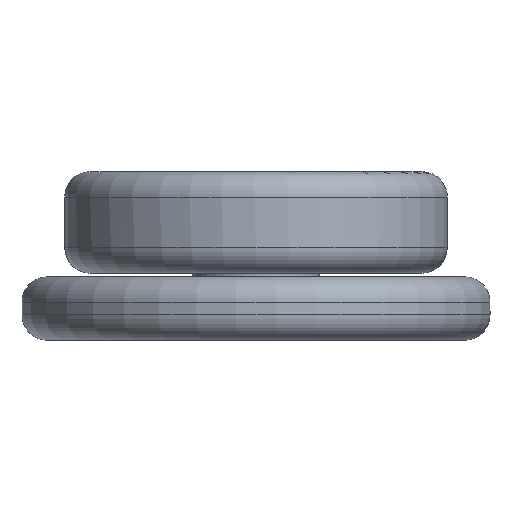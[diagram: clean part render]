
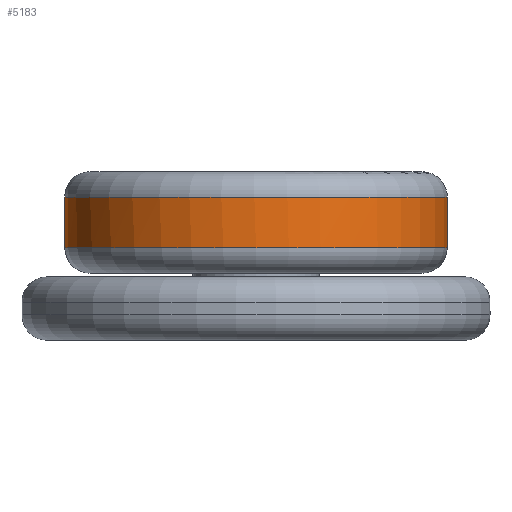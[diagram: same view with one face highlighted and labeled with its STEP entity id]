
A CAD part, front view. The second image highlights one B-rep face of the part: STEP entity #5183.
In plain terms, the highlighted cylindrical face has radius 15.1 mm (diameter 30.2 mm), a partial arc.
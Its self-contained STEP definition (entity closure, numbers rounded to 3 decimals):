
#236=B_SPLINE_CURVE_WITH_KNOTS('',3,(#9765,#9766,#9767,#9768,#9769,#9770,
#9771,#9772),.UNSPECIFIED.,.F.,.F.,(4,2,1,1,4),(-0.409,-0.406,
-0.286,-0.226,-0.106),.UNSPECIFIED.);
#241=B_SPLINE_CURVE_WITH_KNOTS('',3,(#9931,#9932,#9933,#9934,#9935,#9936,
#9937,#9938),.UNSPECIFIED.,.F.,.F.,(4,1,1,2,4),(-0.3,-0.12,
-0.06,0.,0.003),.UNSPECIFIED.);
#399=LINE('',#10089,#723);
#400=LINE('',#10092,#724);
#723=VECTOR('',#6508,10.);
#724=VECTOR('',#6511,10.);
#975=CYLINDRICAL_SURFACE('',#5618,15.1);
#1308=FACE_OUTER_BOUND('',#1630,.T.);
#1630=EDGE_LOOP('',(#4051,#4052,#4053,#4054,#4055,#4056,#4057));
#1965=CIRCLE('',#5605,15.1);
#1966=CIRCLE('',#5606,15.1);
#1973=CIRCLE('',#5619,15.1);
#2310=VERTEX_POINT('',#9753);
#2312=VERTEX_POINT('',#9756);
#2316=VERTEX_POINT('',#9928);
#2317=VERTEX_POINT('',#9930);
#2322=VERTEX_POINT('',#10070);
#2325=VERTEX_POINT('',#10088);
#2326=VERTEX_POINT('',#10090);
#2904=EDGE_CURVE('',#2312,#2310,#236,.T.);
#2911=EDGE_CURVE('',#2316,#2317,#241,.T.);
#2923=EDGE_CURVE('',#2322,#2316,#1965,.T.);
#2924=EDGE_CURVE('',#2310,#2322,#1966,.T.);
#2931=EDGE_CURVE('',#2325,#2312,#399,.T.);
#2932=EDGE_CURVE('',#2326,#2325,#1973,.T.);
#2933=EDGE_CURVE('',#2317,#2326,#400,.T.);
#4051=ORIENTED_EDGE('',*,*,#2904,.F.);
#4052=ORIENTED_EDGE('',*,*,#2931,.F.);
#4053=ORIENTED_EDGE('',*,*,#2932,.F.);
#4054=ORIENTED_EDGE('',*,*,#2933,.F.);
#4055=ORIENTED_EDGE('',*,*,#2911,.F.);
#4056=ORIENTED_EDGE('',*,*,#2923,.F.);
#4057=ORIENTED_EDGE('',*,*,#2924,.F.);
#5183=ADVANCED_FACE('',(#1308),#975,.T.);
#5605=AXIS2_PLACEMENT_3D('',#10072,#6480,#6481);
#5606=AXIS2_PLACEMENT_3D('',#10073,#6482,#6483);
#5618=AXIS2_PLACEMENT_3D('',#10087,#6506,#6507);
#5619=AXIS2_PLACEMENT_3D('',#10091,#6509,#6510);
#6480=DIRECTION('center_axis',(0.,0.,1.));
#6481=DIRECTION('ref_axis',(-0.88,-0.475,0.));
#6482=DIRECTION('center_axis',(0.,0.,1.));
#6483=DIRECTION('ref_axis',(-0.88,-0.475,0.));
#6506=DIRECTION('center_axis',(0.,0.,-1.));
#6507=DIRECTION('ref_axis',(0.,-1.,0.));
#6508=DIRECTION('',(0.,0.,1.));
#6509=DIRECTION('center_axis',(0.,0.,-1.));
#6510=DIRECTION('ref_axis',(0.,-1.,0.));
#6511=DIRECTION('',(0.,0.,-1.));
#9753=CARTESIAN_POINT('',(-13.227,35.096,11.3));
#9756=CARTESIAN_POINT('',(-13.286,34.988,8.3));
#9765=CARTESIAN_POINT('Ctrl Pts',(-13.286,34.988,8.3));
#9766=CARTESIAN_POINT('Ctrl Pts',(-13.286,34.989,8.31));
#9767=CARTESIAN_POINT('Ctrl Pts',(-13.286,34.989,8.319));
#9768=CARTESIAN_POINT('Ctrl Pts',(-13.278,35.003,8.725));
#9769=CARTESIAN_POINT('Ctrl Pts',(-13.267,35.024,9.32));
#9770=CARTESIAN_POINT('Ctrl Pts',(-13.247,35.059,10.31));
#9771=CARTESIAN_POINT('Ctrl Pts',(-13.235,35.081,10.904));
#9772=CARTESIAN_POINT('Ctrl Pts',(-13.227,35.096,11.3));
#9928=CARTESIAN_POINT('',(13.227,35.096,11.3));
#9930=CARTESIAN_POINT('',(13.286,34.988,8.3));
#9931=CARTESIAN_POINT('Ctrl Pts',(13.227,35.096,11.3));
#9932=CARTESIAN_POINT('Ctrl Pts',(13.24,35.074,10.707));
#9933=CARTESIAN_POINT('Ctrl Pts',(13.255,35.045,9.914));
#9934=CARTESIAN_POINT('Ctrl Pts',(13.274,35.01,8.923));
#9935=CARTESIAN_POINT('Ctrl Pts',(13.282,34.996,8.527));
#9936=CARTESIAN_POINT('Ctrl Pts',(13.286,34.989,8.319));
#9937=CARTESIAN_POINT('Ctrl Pts',(13.286,34.989,8.31));
#9938=CARTESIAN_POINT('Ctrl Pts',(13.286,34.988,8.3));
#10070=CARTESIAN_POINT('',(-15.1,27.813,11.3));
#10072=CARTESIAN_POINT('Origin',(0.,27.813,11.3));
#10073=CARTESIAN_POINT('Origin',(0.,27.813,11.3));
#10087=CARTESIAN_POINT('Origin',(0.,27.813,10.3));
#10088=CARTESIAN_POINT('',(-13.286,34.988,7.3));
#10089=CARTESIAN_POINT('',(-13.286,34.988,10.3));
#10090=CARTESIAN_POINT('',(13.286,34.988,7.3));
#10091=CARTESIAN_POINT('Origin',(0.,27.813,7.3));
#10092=CARTESIAN_POINT('',(13.286,34.988,10.3));
